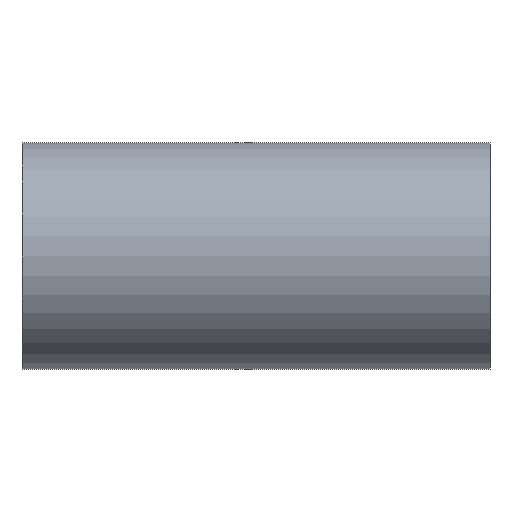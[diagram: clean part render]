
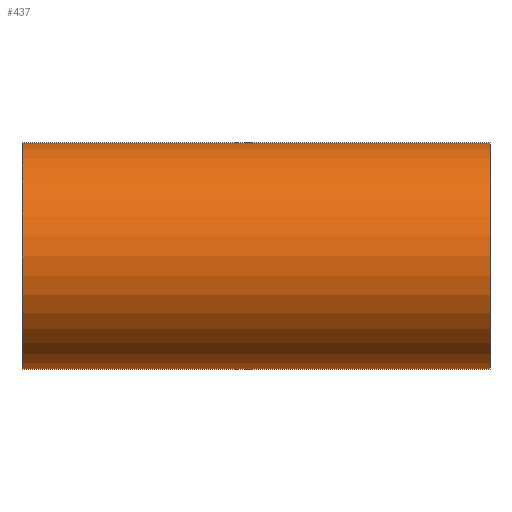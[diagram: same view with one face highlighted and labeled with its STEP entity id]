
A CAD part, front view. The second image highlights one B-rep face of the part: STEP entity #437.
In plain terms, the highlighted cylindrical face has radius 50.8 mm (diameter 101.6 mm), a partial arc.
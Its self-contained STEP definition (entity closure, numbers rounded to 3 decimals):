
#117 = DIRECTION ( 'NONE',  ( 0., 0., -1. ) ) ;
#134 = VERTEX_POINT ( 'NONE', #665 ) ;
#188 = DIRECTION ( 'NONE',  ( 1., 0., 0. ) ) ;
#201 = DIRECTION ( 'NONE',  ( 0., 0., -1. ) ) ;
#247 = CARTESIAN_POINT ( 'NONE',  ( -104.8, 0., -50.8 ) ) ;
#273 = ORIENTED_EDGE ( 'NONE', *, *, #1001, .T. ) ;
#375 = EDGE_CURVE ( 'NONE', #990, #1607, #1354, .T. ) ;
#425 = AXIS2_PLACEMENT_3D ( 'NONE', #787, #486, #117 ) ;
#437 = ADVANCED_FACE ( 'NONE', ( #1258 ), #937, .T. ) ;
#443 = VERTEX_POINT ( 'NONE', #1803 ) ;
#471 = LINE ( 'NONE', #247, #635 ) ;
#486 = DIRECTION ( 'NONE',  ( 1., 0., 0. ) ) ;
#635 = VECTOR ( 'NONE', #1305, 1000. ) ;
#664 = DIRECTION ( 'NONE',  ( 1., 0., 0. ) ) ;
#665 = CARTESIAN_POINT ( 'NONE',  ( 104.8, 0., -50.8 ) ) ;
#739 = CARTESIAN_POINT ( 'NONE',  ( -104.8, 0., 50.8 ) ) ;
#741 = EDGE_CURVE ( 'NONE', #134, #443, #1472, .T. ) ;
#787 = CARTESIAN_POINT ( 'NONE',  ( -104.8, 0., 0. ) ) ;
#937 = CYLINDRICAL_SURFACE ( 'NONE', #425, 50.8 ) ;
#990 = VERTEX_POINT ( 'NONE', #1805 ) ;
#1001 = EDGE_CURVE ( 'NONE', #1607, #134, #471, .T. ) ;
#1085 = ORIENTED_EDGE ( 'NONE', *, *, #375, .T. ) ;
#1095 = ORIENTED_EDGE ( 'NONE', *, *, #1124, .F. ) ;
#1118 = DIRECTION ( 'NONE',  ( -1., 0., 0. ) ) ;
#1124 = EDGE_CURVE ( 'NONE', #990, #443, #1527, .T. ) ;
#1258 = FACE_OUTER_BOUND ( 'NONE', #1711, .T. ) ;
#1305 = DIRECTION ( 'NONE',  ( 1., 0., 0. ) ) ;
#1350 = DIRECTION ( 'NONE',  ( 0., 0., -1. ) ) ;
#1354 = CIRCLE ( 'NONE', #1619, 50.8 ) ;
#1382 = CARTESIAN_POINT ( 'NONE',  ( -104.8, 0., 0. ) ) ;
#1472 = CIRCLE ( 'NONE', #1492, 50.8 ) ;
#1492 = AXIS2_PLACEMENT_3D ( 'NONE', #1539, #1118, #201 ) ;
#1523 = VECTOR ( 'NONE', #664, 1000. ) ;
#1527 = LINE ( 'NONE', #739, #1523 ) ;
#1529 = CARTESIAN_POINT ( 'NONE',  ( -104.8, 0., -50.8 ) ) ;
#1539 = CARTESIAN_POINT ( 'NONE',  ( 104.8, 0., 0. ) ) ;
#1607 = VERTEX_POINT ( 'NONE', #1529 ) ;
#1619 = AXIS2_PLACEMENT_3D ( 'NONE', #1382, #188, #1350 ) ;
#1711 = EDGE_LOOP ( 'NONE', ( #1095, #1085, #273, #1863 ) ) ;
#1803 = CARTESIAN_POINT ( 'NONE',  ( 104.8, 0., 50.8 ) ) ;
#1805 = CARTESIAN_POINT ( 'NONE',  ( -104.8, 0., 50.8 ) ) ;
#1863 = ORIENTED_EDGE ( 'NONE', *, *, #741, .T. ) ;
